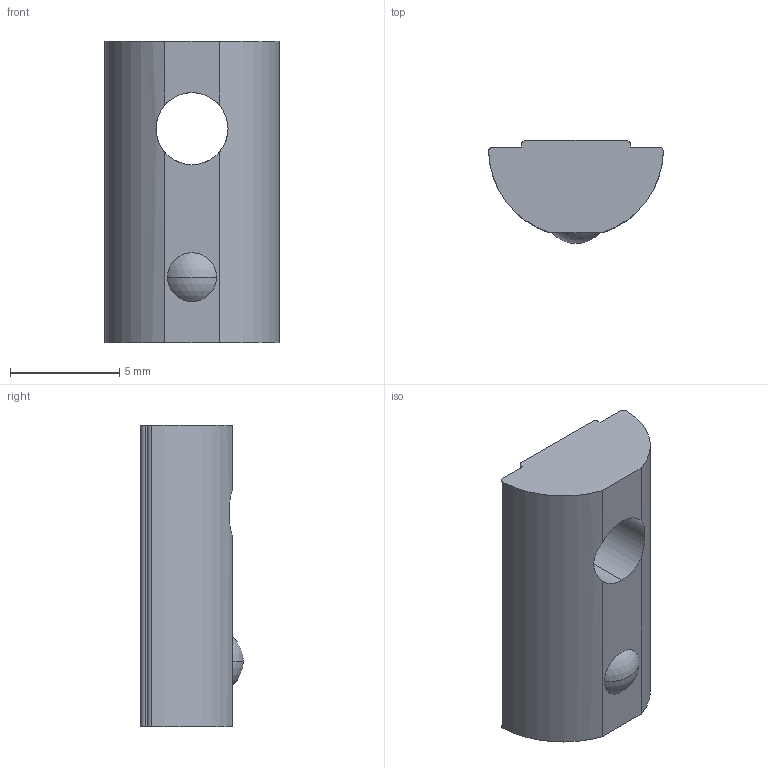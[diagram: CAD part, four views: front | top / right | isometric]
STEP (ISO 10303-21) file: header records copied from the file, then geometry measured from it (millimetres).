
FILE_DESCRIPTION (( 'STEP AP203' ), '1' );
FILE_NAME ('LIMA-LHNR4-62020.STEP', '2018-03-15T12:14:00', ( '' ), ( '' ), 'SwSTEP 2.0', 'SolidWorks 2013', '' );
FILE_SCHEMA (( 'CONFIG_CONTROL_DESIGN' ));
Length unit declared in the file: millimetre
Products named in the file (1): LIMA-LHNR4-62020
Bounding box: 8 x 4.7 x 13.8 mm (x, y, z)
Volume: 338.7 mm3; surface area: 370.3 mm2
Topology: 1 solids, 1 shells, 20 faces, 55 edges, 37 vertices
Faces by surface type: cylinder 9, plane 9, sphere 2
Entity records: 754 total; most frequent: CARTESIAN_POINT 139, DIRECTION 119, ORIENTED_EDGE 110, EDGE_CURVE 55, AXIS2_PLACEMENT_3D 45, VERTEX_POINT 37, VECTOR 29, LINE 29
